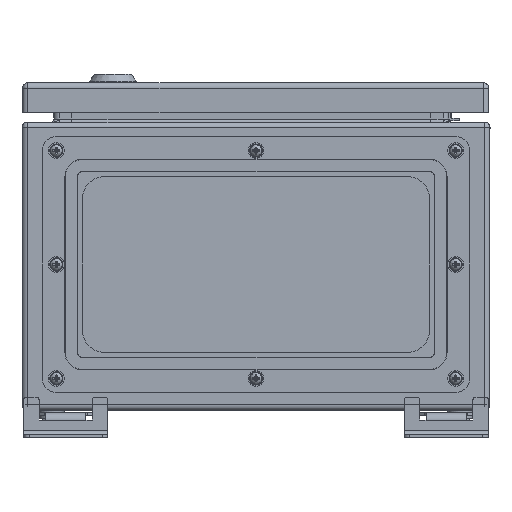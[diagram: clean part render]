
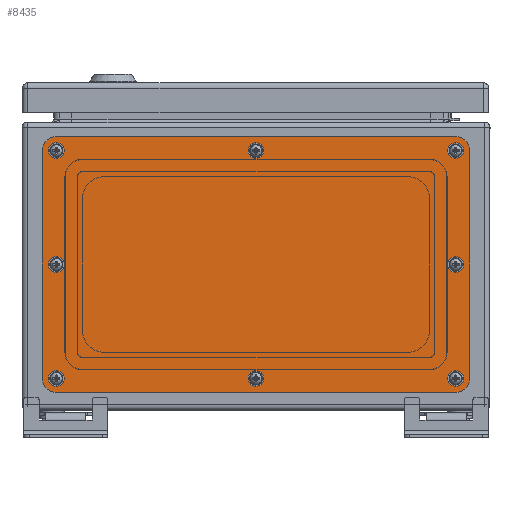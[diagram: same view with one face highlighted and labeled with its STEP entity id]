
A CAD part, front view. The second image highlights one B-rep face of the part: STEP entity #8435.
In plain terms, the highlighted planar face has unit normal (0, -1, 0).
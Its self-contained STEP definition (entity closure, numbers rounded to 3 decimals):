
#8435=ADVANCED_FACE('',(#31994,#31996,#31998,#32000,#32002,#32004,#32006,#32008,
#32010),#32012,.T.);
#31994=FACE_BOUND('',#31995,.T.);
#31995=EDGE_LOOP('',(#37091,#37092,#37093,#37094,#37095,#37096,#37097,#37098));
#31996=FACE_BOUND('',#31997,.T.);
#31997=EDGE_LOOP('',(#37099));
#31998=FACE_BOUND('',#31999,.T.);
#31999=EDGE_LOOP('',(#37100));
#32000=FACE_BOUND('',#32001,.T.);
#32001=EDGE_LOOP('',(#37101));
#32002=FACE_BOUND('',#32003,.T.);
#32003=EDGE_LOOP('',(#37102));
#32004=FACE_BOUND('',#32005,.T.);
#32005=EDGE_LOOP('',(#37103));
#32006=FACE_BOUND('',#32007,.T.);
#32007=EDGE_LOOP('',(#37104));
#32008=FACE_BOUND('',#32009,.T.);
#32009=EDGE_LOOP('',(#37105));
#32010=FACE_BOUND('',#32011,.T.);
#32011=EDGE_LOOP('',(#37106));
#32012=PLANE('',#32013);
#32013=AXIS2_PLACEMENT_3D('',#32014,#32015,#32016);
#32014=CARTESIAN_POINT('',(0.,273.846,0.));
#32015=DIRECTION('',(0.,-1.,0.));
#32016=DIRECTION('',(1.,0.,0.));
#37091=ORIENTED_EDGE('',*,*,#39638,.T.);
#37092=ORIENTED_EDGE('',*,*,#39636,.T.);
#37093=ORIENTED_EDGE('',*,*,#39634,.T.);
#37094=ORIENTED_EDGE('',*,*,#39632,.T.);
#37095=ORIENTED_EDGE('',*,*,#39630,.T.);
#37096=ORIENTED_EDGE('',*,*,#39628,.T.);
#37097=ORIENTED_EDGE('',*,*,#39626,.T.);
#37098=ORIENTED_EDGE('',*,*,#39624,.T.);
#37099=ORIENTED_EDGE('',*,*,#39646,.T.);
#37100=ORIENTED_EDGE('',*,*,#39645,.T.);
#37101=ORIENTED_EDGE('',*,*,#39644,.T.);
#37102=ORIENTED_EDGE('',*,*,#39643,.T.);
#37103=ORIENTED_EDGE('',*,*,#39642,.T.);
#37104=ORIENTED_EDGE('',*,*,#39641,.T.);
#37105=ORIENTED_EDGE('',*,*,#39640,.T.);
#37106=ORIENTED_EDGE('',*,*,#39639,.T.);
#39624=EDGE_CURVE('',#43675,#43673,#43676,.T.);
#39626=EDGE_CURVE('',#43678,#43675,#43679,.T.);
#39628=EDGE_CURVE('',#43681,#43678,#43682,.T.);
#39630=EDGE_CURVE('',#43684,#43681,#43685,.T.);
#39632=EDGE_CURVE('',#43687,#43684,#43688,.T.);
#39634=EDGE_CURVE('',#43690,#43687,#43691,.T.);
#39636=EDGE_CURVE('',#43693,#43690,#43694,.T.);
#39638=EDGE_CURVE('',#43673,#43693,#43696,.T.);
#39639=EDGE_CURVE('',#43697,#43697,#43698,.F.);
#39640=EDGE_CURVE('',#43699,#43699,#43700,.F.);
#39641=EDGE_CURVE('',#43701,#43701,#43702,.F.);
#39642=EDGE_CURVE('',#43703,#43703,#43704,.F.);
#39643=EDGE_CURVE('',#43705,#43705,#43706,.F.);
#39644=EDGE_CURVE('',#43707,#43707,#43708,.F.);
#39645=EDGE_CURVE('',#43709,#43709,#43710,.F.);
#39646=EDGE_CURVE('',#43711,#43711,#43712,.F.);
#43673=VERTEX_POINT('',#66809);
#43675=VERTEX_POINT('',#66813);
#43676=LINE('',#66814,#66815);
#43678=VERTEX_POINT('',#66820);
#43679=CIRCLE('',#66821,9.);
#43681=VERTEX_POINT('',#66828);
#43682=LINE('',#66829,#66830);
#43684=VERTEX_POINT('',#66835);
#43685=CIRCLE('',#66836,9.);
#43687=VERTEX_POINT('',#66843);
#43688=LINE('',#66844,#66845);
#43690=VERTEX_POINT('',#66850);
#43691=CIRCLE('',#66851,9.);
#43693=VERTEX_POINT('',#66858);
#43694=LINE('',#66859,#66860);
#43696=CIRCLE('',#66865,9.);
#43697=VERTEX_POINT('',#66869);
#43698=CIRCLE('',#66870,3.);
#43699=VERTEX_POINT('',#66874);
#43700=CIRCLE('',#66875,3.);
#43701=VERTEX_POINT('',#66879);
#43702=CIRCLE('',#66880,3.);
#43703=VERTEX_POINT('',#66884);
#43704=CIRCLE('',#66885,3.);
#43705=VERTEX_POINT('',#66889);
#43706=CIRCLE('',#66890,3.);
#43707=VERTEX_POINT('',#66894);
#43708=CIRCLE('',#66895,3.);
#43709=VERTEX_POINT('',#66899);
#43710=CIRCLE('',#66900,3.);
#43711=VERTEX_POINT('',#66904);
#43712=CIRCLE('',#66905,3.);
#66809=CARTESIAN_POINT('',(-137.,273.846,-73.));
#66813=CARTESIAN_POINT('',(-137.,273.846,73.));
#66814=CARTESIAN_POINT('',(-137.,273.846,73.));
#66815=VECTOR('',#66816,1.);
#66816=DIRECTION('',(0.,0.,-1.));
#66820=CARTESIAN_POINT('',(-128.,273.846,82.));
#66821=AXIS2_PLACEMENT_3D('',#66822,#66823,#66824);
#66822=CARTESIAN_POINT('',(-128.,273.846,73.));
#66823=DIRECTION('',(0.,-1.,0.));
#66824=DIRECTION('',(0.,0.,1.));
#66828=CARTESIAN_POINT('',(128.,273.846,82.));
#66829=CARTESIAN_POINT('',(128.,273.846,82.));
#66830=VECTOR('',#66831,1.);
#66831=DIRECTION('',(-1.,0.,0.));
#66835=CARTESIAN_POINT('',(137.,273.846,73.));
#66836=AXIS2_PLACEMENT_3D('',#66837,#66838,#66839);
#66837=CARTESIAN_POINT('',(128.,273.846,73.));
#66838=DIRECTION('',(0.,-1.,0.));
#66839=DIRECTION('',(1.,0.,0.));
#66843=CARTESIAN_POINT('',(137.,273.846,-73.));
#66844=CARTESIAN_POINT('',(137.,273.846,-73.));
#66845=VECTOR('',#66846,1.);
#66846=DIRECTION('',(0.,0.,1.));
#66850=CARTESIAN_POINT('',(128.,273.846,-82.));
#66851=AXIS2_PLACEMENT_3D('',#66852,#66853,#66854);
#66852=CARTESIAN_POINT('',(128.,273.846,-73.));
#66853=DIRECTION('',(0.,-1.,0.));
#66854=DIRECTION('',(0.,0.,-1.));
#66858=CARTESIAN_POINT('',(-128.,273.846,-82.));
#66859=CARTESIAN_POINT('',(-128.,273.846,-82.));
#66860=VECTOR('',#66861,1.);
#66861=DIRECTION('',(1.,0.,0.));
#66865=AXIS2_PLACEMENT_3D('',#66866,#66867,#66868);
#66866=CARTESIAN_POINT('',(-128.,273.846,-73.));
#66867=DIRECTION('',(0.,-1.,0.));
#66868=DIRECTION('',(-1.,0.,0.));
#66869=CARTESIAN_POINT('',(3.,273.846,-73.));
#66870=AXIS2_PLACEMENT_3D('',#66871,#66872,#66873);
#66871=CARTESIAN_POINT('',(0.,273.846,-73.));
#66872=DIRECTION('',(0.,-1.,0.));
#66873=DIRECTION('',(1.,0.,0.));
#66874=CARTESIAN_POINT('',(3.,273.846,73.));
#66875=AXIS2_PLACEMENT_3D('',#66876,#66877,#66878);
#66876=CARTESIAN_POINT('',(0.,273.846,73.));
#66877=DIRECTION('',(0.,-1.,0.));
#66878=DIRECTION('',(1.,0.,0.));
#66879=CARTESIAN_POINT('',(-125.,273.846,-73.));
#66880=AXIS2_PLACEMENT_3D('',#66881,#66882,#66883);
#66881=CARTESIAN_POINT('',(-128.,273.846,-73.));
#66882=DIRECTION('',(0.,-1.,0.));
#66883=DIRECTION('',(1.,0.,0.));
#66884=CARTESIAN_POINT('',(131.,273.846,-73.));
#66885=AXIS2_PLACEMENT_3D('',#66886,#66887,#66888);
#66886=CARTESIAN_POINT('',(128.,273.846,-73.));
#66887=DIRECTION('',(0.,-1.,0.));
#66888=DIRECTION('',(1.,0.,0.));
#66889=CARTESIAN_POINT('',(131.,273.846,73.));
#66890=AXIS2_PLACEMENT_3D('',#66891,#66892,#66893);
#66891=CARTESIAN_POINT('',(128.,273.846,73.));
#66892=DIRECTION('',(0.,-1.,0.));
#66893=DIRECTION('',(1.,0.,0.));
#66894=CARTESIAN_POINT('',(-125.,273.846,73.));
#66895=AXIS2_PLACEMENT_3D('',#66896,#66897,#66898);
#66896=CARTESIAN_POINT('',(-128.,273.846,73.));
#66897=DIRECTION('',(0.,-1.,0.));
#66898=DIRECTION('',(1.,0.,0.));
#66899=CARTESIAN_POINT('',(131.,273.846,0.));
#66900=AXIS2_PLACEMENT_3D('',#66901,#66902,#66903);
#66901=CARTESIAN_POINT('',(128.,273.846,0.));
#66902=DIRECTION('',(0.,-1.,0.));
#66903=DIRECTION('',(1.,0.,0.));
#66904=CARTESIAN_POINT('',(-125.,273.846,0.));
#66905=AXIS2_PLACEMENT_3D('',#66906,#66907,#66908);
#66906=CARTESIAN_POINT('',(-128.,273.846,0.));
#66907=DIRECTION('',(0.,-1.,0.));
#66908=DIRECTION('',(1.,0.,0.));
